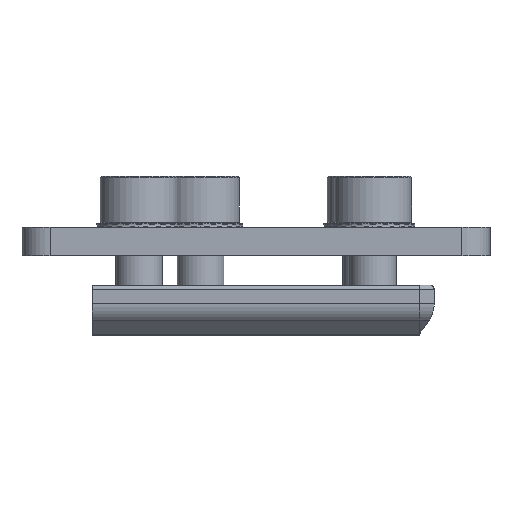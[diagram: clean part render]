
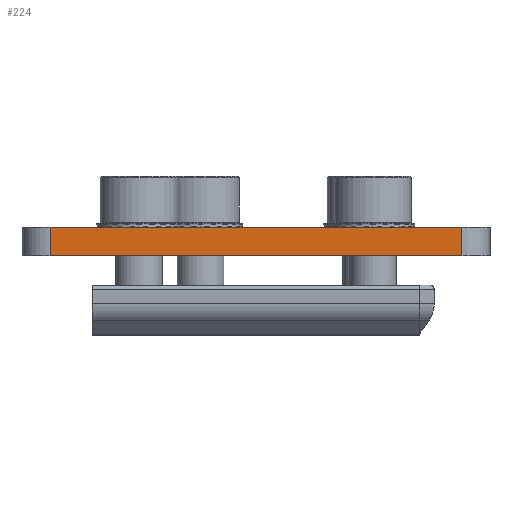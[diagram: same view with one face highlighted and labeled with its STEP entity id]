
A CAD part, front view. The second image highlights one B-rep face of the part: STEP entity #224.
In plain terms, the highlighted planar face has unit normal (0, -1, 0).
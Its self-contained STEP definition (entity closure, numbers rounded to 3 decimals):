
#224 = ADVANCED_FACE ( 'NONE', ( #4625 ), #4391, .T. ) ;
#331 = CARTESIAN_POINT ( 'NONE',  ( -9.5, -12.5, 12.089 ) ) ;
#532 = DIRECTION ( 'NONE',  ( 0., -1., 0. ) ) ;
#536 = LINE ( 'NONE', #7071, #8040 ) ;
#543 = VECTOR ( 'NONE', #5869, 1000. ) ;
#574 = CARTESIAN_POINT ( 'NONE',  ( -9.5, -12.5, 9.089 ) ) ;
#839 = DIRECTION ( 'NONE',  ( 1., 0., 0. ) ) ;
#1141 = CARTESIAN_POINT ( 'NONE',  ( -9.5, -12.5, 9.089 ) ) ;
#1510 = AXIS2_PLACEMENT_3D ( 'NONE', #1141, #532, #7705 ) ;
#1562 = VECTOR ( 'NONE', #1983, 1000. ) ;
#1789 = LINE ( 'NONE', #8271, #1562 ) ;
#1880 = LINE ( 'NONE', #7825, #7269 ) ;
#1983 = DIRECTION ( 'NONE',  ( 1., 0., 0. ) ) ;
#2880 = DIRECTION ( 'NONE',  ( 0., 0., 1. ) ) ;
#3042 = CARTESIAN_POINT ( 'NONE',  ( 34.5, -12.5, 12.089 ) ) ;
#3045 = EDGE_LOOP ( 'NONE', ( #6925, #8456, #4633, #8222 ) ) ;
#3057 = CARTESIAN_POINT ( 'NONE',  ( 34.5, -12.5, 9.089 ) ) ;
#3373 = VERTEX_POINT ( 'NONE', #574 ) ;
#4391 = PLANE ( 'NONE',  #1510 ) ;
#4625 = FACE_OUTER_BOUND ( 'NONE', #3045, .T. ) ;
#4633 = ORIENTED_EDGE ( 'NONE', *, *, #5375, .T. ) ;
#5177 = CARTESIAN_POINT ( 'NONE',  ( 34.5, -12.5, 9.089 ) ) ;
#5375 = EDGE_CURVE ( 'NONE', #3373, #6685, #1789, .T. ) ;
#5869 = DIRECTION ( 'NONE',  ( 0., 0., 1. ) ) ;
#5948 = LINE ( 'NONE', #5177, #543 ) ;
#6065 = EDGE_CURVE ( 'NONE', #8466, #7278, #1880, .T. ) ;
#6685 = VERTEX_POINT ( 'NONE', #3057 ) ;
#6703 = EDGE_CURVE ( 'NONE', #6685, #7278, #5948, .T. ) ;
#6925 = ORIENTED_EDGE ( 'NONE', *, *, #6065, .F. ) ;
#7071 = CARTESIAN_POINT ( 'NONE',  ( -9.5, -12.5, 9.089 ) ) ;
#7126 = EDGE_CURVE ( 'NONE', #3373, #8466, #536, .T. ) ;
#7269 = VECTOR ( 'NONE', #839, 1000. ) ;
#7278 = VERTEX_POINT ( 'NONE', #3042 ) ;
#7705 = DIRECTION ( 'NONE',  ( 1., 0., 0. ) ) ;
#7825 = CARTESIAN_POINT ( 'NONE',  ( -9.5, -12.5, 12.089 ) ) ;
#8040 = VECTOR ( 'NONE', #2880, 1000. ) ;
#8222 = ORIENTED_EDGE ( 'NONE', *, *, #6703, .T. ) ;
#8271 = CARTESIAN_POINT ( 'NONE',  ( -9.5, -12.5, 9.089 ) ) ;
#8456 = ORIENTED_EDGE ( 'NONE', *, *, #7126, .F. ) ;
#8466 = VERTEX_POINT ( 'NONE', #331 ) ;
